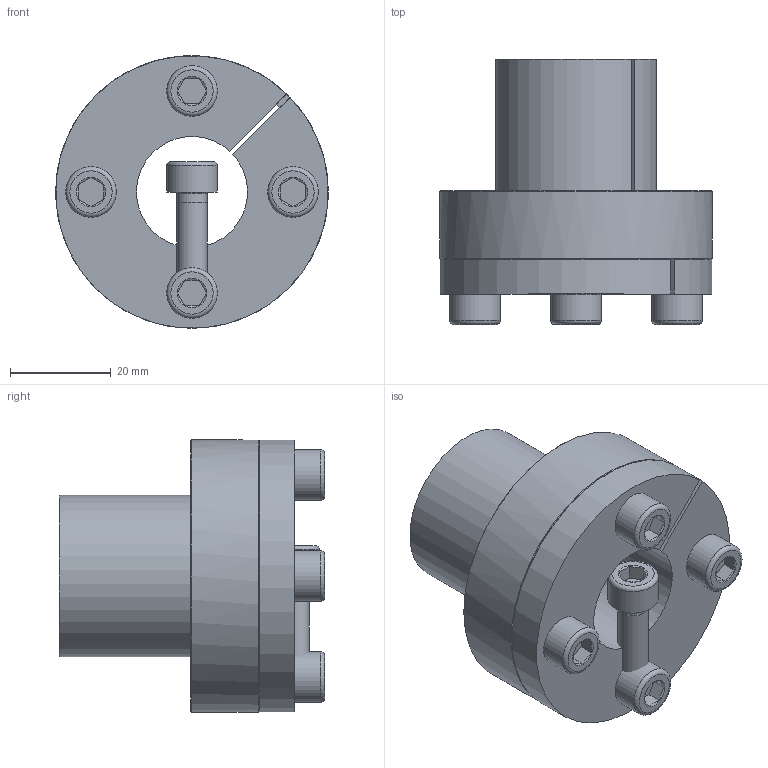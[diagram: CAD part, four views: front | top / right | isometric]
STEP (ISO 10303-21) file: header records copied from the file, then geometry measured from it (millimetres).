
FILE_DESCRIPTION( ( 'Unknown' ), '1' );
FILE_NAME( 'C:/Dokumente und Einstellungen/Sven/Desktop/homepage/cad - homepage/KBS80/KBS 80 - 22 x 32.stp', 'Unknown', ( 'Unknown' ), ( 'Unknown' ), 'XStep 1.0', 'Unknown', ' ' );
FILE_SCHEMA( ( 'automotive_design' ) );
Length unit declared in the file: millimetre
Products named in the file (6): Assem1; KBS 80 - 22 x 32; ISO EN DIN 4762 M6x18; ISO EN DIN 4762 M6x18-oa0; ISO EN DIN 4762 M6x18-oa1; ISO EN DIN 4762 M6x18-oa2
Bounding box: 54 x 52.5 x 54 mm (x, y, z)
Volume: 101986 mm3; surface area: 36348 mm2
Topology: 10 solids, 10 shells, 248 faces, 478 edges, 280 vertices
Faces by surface type: plane 112, cone 70, cylinder 50, torus 16
Full cylindrical faces by diameter (mm): 5 x8, 6 x24, 10 x8, 54 x2
Entity records: 3283 total; most frequent: CARTESIAN_POINT 661, DIRECTION 516, ORIENTED_EDGE 386, AXIS2_PLACEMENT_3D 225, EDGE_CURVE 193, EDGE_LOOP 185, FACE_OUTER_BOUND 153, VERTEX_POINT 130
